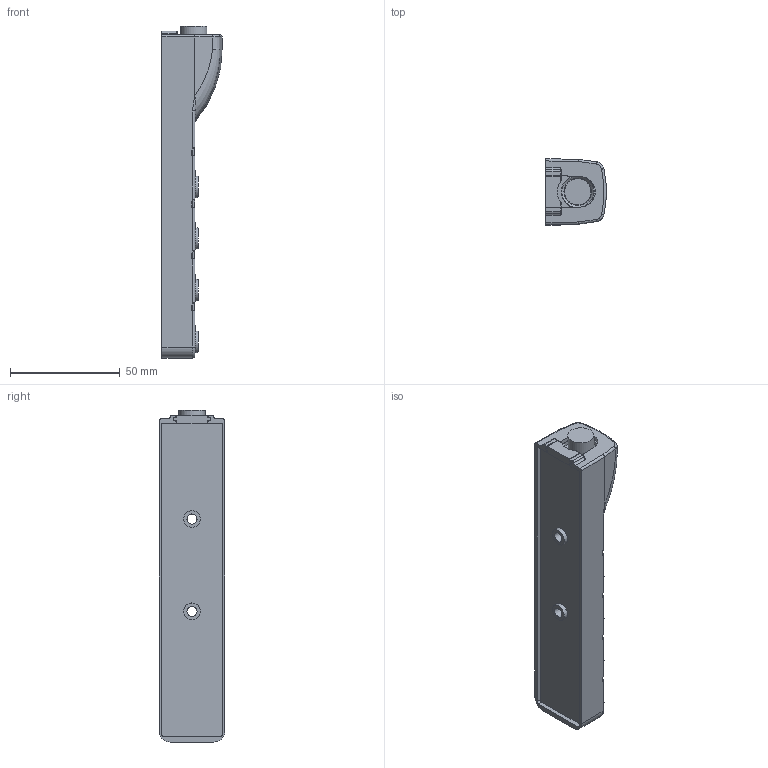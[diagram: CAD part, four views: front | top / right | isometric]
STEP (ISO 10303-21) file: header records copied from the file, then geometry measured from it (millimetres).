
FILE_DESCRIPTION((''),'2;1');
FILE_NAME('C:\Users\enrico\Desktop\Ale\Sito Web Mintec\AUTOMAZIONE_2020\FOTO & STEP Distributori passivi_ciabatte\Con uscita cavo\ciabatta M8 8 vie cavo no LED.stp','2020-07-24T16:07:12',('Tecnico2'),(''),'Autodesk Inventor 2012','Autodesk Inventor 2012','');
FILE_SCHEMA(('AUTOMOTIVE_DESIGN { 1 0 10303 214 1 1 1 1 }'));
Length unit declared in the file: millimetre
Products named in the file (1): ciabatta M8 8 vie cavo no LED
Bounding box: 27.42 x 30 x 151 mm (x, y, z)
Volume: 42987.5 mm3; surface area: 49861.4 mm2
Topology: 61 solids, 61 shells, 2194 faces, 5699 edges, 3773 vertices
Faces by surface type: plane 1411, cylinder 395, cone 299, bspline 36, torus 28, sphere 25
Full cylindrical faces by diameter (mm): 0.8 x24, 1 x24, 1.4 x24, 1.6 x24, 1.65 x24, 1.75 x24, 1.8 x25, 3.1 x1, 3.2 x1, 4 x1, 5 x17, 7.2 x8, 8 x8, 8.4 x16, 10 x16, 12 x1, 15 x2
Entity records: 70572 total; most frequent: CARTESIAN_POINT 19627, DIRECTION 10379, ORIENTED_EDGE 9804, EDGE_CURVE 4902, AXIS2_PLACEMENT_3D 3515, VERTEX_POINT 3488, VECTOR 3349, LINE 3349
